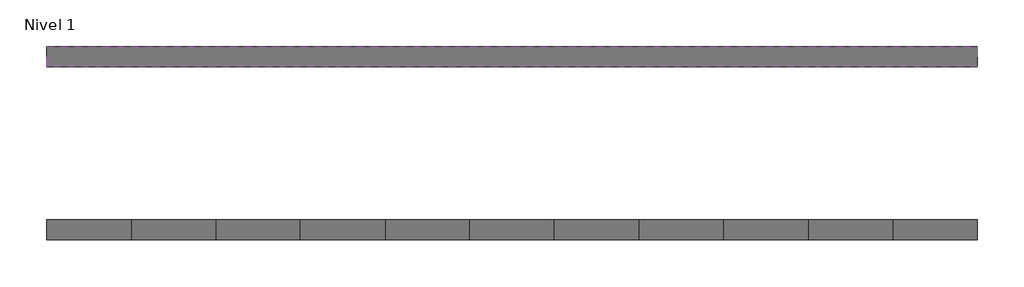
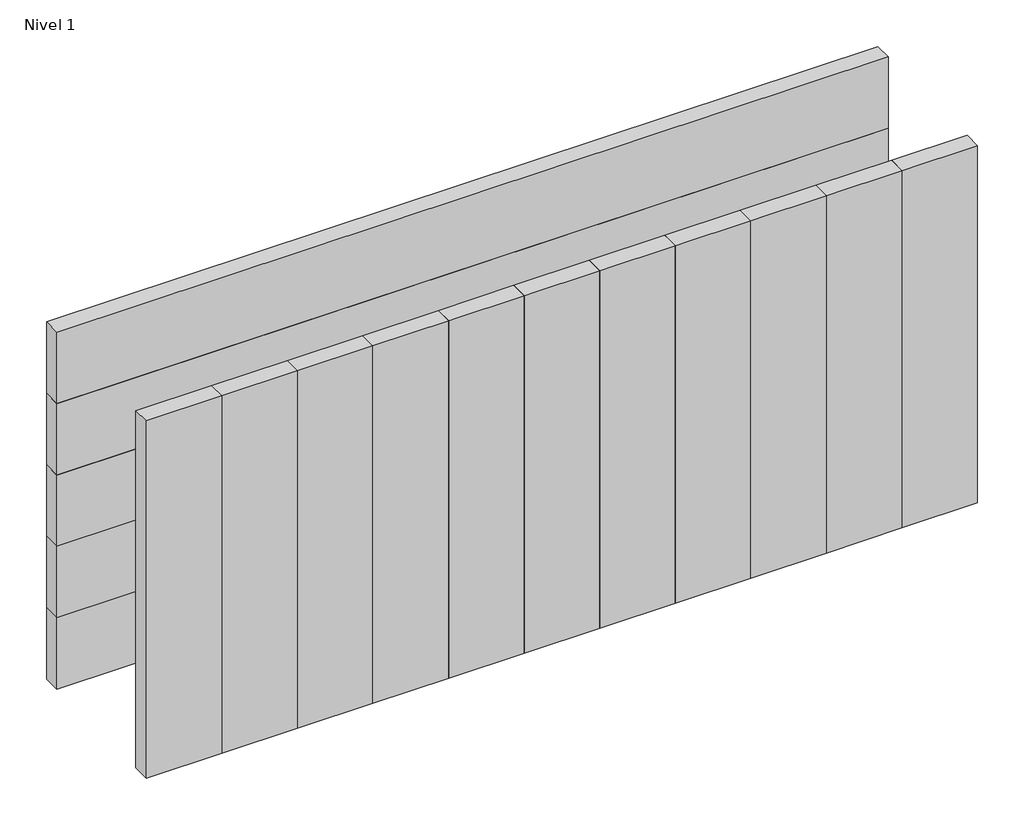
# One storey: 16 plates.
"""IFC4 building model written with IfcOpenShell, lengths in millimetres."""

import ifcopenshell
import ifcopenshell.guid

model = None  # the IFC model being written
_history = None  # IfcOwnerHistory: only IFC2X3 demands one
_inside = {}  # id of a spatial element -> (the spatial element, [elements in it])
_under = {}  # id of a project, library or spatial element -> (it, [spatial elements below it])
_declared = {}  # id of a project -> (the project, [libraries it declares])
_typed = {}  # id of a type object -> (the type object, [elements of that type])
_made_of = {}  # id of a material, layer set ... -> (it, [elements and type objects made of it])


def new_model(schema):
    """Start an empty IFC model of exactly this schema.

    Asked for "IFC4X3", IfcOpenShell would pick the latest addendum, in which some entities
    have other attributes; the version numbers below select the first issue.
    IFC2X3 requires an IfcOwnerHistory on every rooted entity: one is made here for all.
    """
    global model, _history
    if schema == "IFC4X3":
        model = ifcopenshell.file(schema_version=(4, 3, 0, 0))
    else:
        model = ifcopenshell.file(schema=schema)
    _inside.clear()
    _under.clear()
    _declared.clear()
    _typed.clear()
    _made_of.clear()
    _history = None
    if model.schema == "IFC2X3":
        org = make("IfcOrganization", Name="unknown")
        user = make(
            "IfcPersonAndOrganization",
            ThePerson=make("IfcPerson", FamilyName="unknown"),
            TheOrganization=org,
        )
        app = make(
            "IfcApplication",
            ApplicationDeveloper=org,
            Version="unknown",
            ApplicationFullName="unknown",
            ApplicationIdentifier="unknown",
        )
        _history = make(
            "IfcOwnerHistory",
            OwningUser=user,
            OwningApplication=app,
            ChangeAction="ADDED",
            CreationDate=0,
        )
    return model


def make(cls, **values):
    """One entity of the class cls with the attributes given. An attribute that is None is left unset."""
    return model.create_entity(
        cls, **{name: value for name, value in values.items() if value is not None}
    )


def rooted(cls, **values):
    """An entity with a GlobalId (a new one), such as an element, a storey or a relation."""
    return make(cls, GlobalId=ifcopenshell.guid.new(), OwnerHistory=_history, **values)


def si_unit(unit_type, name, prefix=None):
    """IfcSIUnit, for example si_unit("LENGTHUNIT", "METRE", prefix="MILLI")."""
    return make("IfcSIUnit", UnitType=unit_type, Prefix=prefix, Name=name)


def assignment(units):
    """IfcUnitAssignment: the units of a project."""
    return None if units is None else make("IfcUnitAssignment", Units=units)


def point(xyz):
    """IfcCartesianPoint."""
    return None if xyz is None else make("IfcCartesianPoint", Coordinates=xyz)


def direction(xyz):
    """IfcDirection."""
    return None if xyz is None else make("IfcDirection", DirectionRatios=xyz)


def frame(location, z_axis=None, x_axis=None):
    """IfcAxis2Placement3D, a coordinate frame: its origin and axes. An axis left out is left unset."""
    return make(
        "IfcAxis2Placement3D",
        Location=point(location),
        Axis=direction(z_axis),
        RefDirection=direction(x_axis),
    )


def origin():
    """The frame at (0, 0, 0) with its axes left unset."""
    return frame((0.0, 0.0, 0.0))


def origin_with_axes():
    """The frame at (0, 0, 0) with the z axis (0, 0, 1) and the x axis (1, 0, 0) written out."""
    return frame((0.0, 0.0, 0.0), z_axis=(0.0, 0.0, 1.0), x_axis=(1.0, 0.0, 0.0))


def place(relative_to, where):
    """IfcLocalPlacement: puts the frame where relative to a parent placement (None: the world)."""
    return make(
        "IfcLocalPlacement", PlacementRelTo=relative_to, RelativePlacement=where
    )


def context(
    kind, dimensions, precision=None, world=None, true_north=None, identifier=None
):
    """IfcGeometricRepresentationContext, for example the 3D "Model" context."""
    return make(
        "IfcGeometricRepresentationContext",
        ContextIdentifier=identifier,
        ContextType=kind,
        CoordinateSpaceDimension=dimensions,
        Precision=precision,
        WorldCoordinateSystem=world,
        TrueNorth=true_north,
    )


def project(units=None, contexts=None):
    """IfcProject with its units and contexts."""
    return rooted(
        "IfcProject",
        Name="project",
        RepresentationContexts=contexts,
        UnitsInContext=assignment(units),
    )


def spatial(cls, under=None, at=None, **own):
    """A site, building, storey or space (cls), placed at a placement, below another one or the project."""
    s = rooted(cls, ObjectPlacement=at, **own)
    if under is not None:
        _under.setdefault(under.id(), (under, []))[1].append(s)
    return s


def polyline(points):
    """IfcPolyline through the points."""
    return make("IfcPolyline", Points=[point(p) for p in points])


def outline(outer, holes=None, kind="AREA"):
    """IfcArbitraryClosedProfileDef: a profile drawn as a closed curve; with holes, ...WithVoids."""
    if holes is None:
        return make("IfcArbitraryClosedProfileDef", ProfileType=kind, OuterCurve=outer)
    return make(
        "IfcArbitraryProfileDefWithVoids",
        ProfileType=kind,
        OuterCurve=outer,
        InnerCurves=holes,
    )


def extrude(swept, where, along, depth):
    """IfcExtrudedAreaSolid: the profile swept, set in the frame where, extruded along a direction by depth."""
    return make(
        "IfcExtrudedAreaSolid",
        SweptArea=swept,
        Position=where,
        ExtrudedDirection=direction(along),
        Depth=depth,
    )


def shape(context_of_items, identifier, shape_type, items):
    """IfcShapeRepresentation: the items that make up one representation, for example the "Body"."""
    return make(
        "IfcShapeRepresentation",
        ContextOfItems=context_of_items,
        RepresentationIdentifier=identifier,
        RepresentationType=shape_type,
        Items=items,
    )


def source(mapping_origin, context_of_items, identifier, shape_type, items):
    """IfcRepresentationMap: a shape defined once, which mapped items show again and again."""
    return make(
        "IfcRepresentationMap",
        MappingOrigin=mapping_origin,
        MappedRepresentation=shape(context_of_items, identifier, shape_type, items),
    )


def transform(
    local_origin,
    x_axis=None,
    y_axis=None,
    z_axis=None,
    scale=None,
    scale2=None,
    scale3=None,
    uniform=True,
):
    """IfcCartesianTransformationOperator3D, or its non-uniform kind. x_axis, y_axis, z_axis: its Axis1, 2, 3."""
    if uniform:
        return make(
            "IfcCartesianTransformationOperator3D",
            Axis1=direction(x_axis),
            Axis2=direction(y_axis),
            LocalOrigin=point(local_origin),
            Scale=scale,
            Axis3=direction(z_axis),
        )
    return make(
        "IfcCartesianTransformationOperator3DnonUniform",
        Axis1=direction(x_axis),
        Axis2=direction(y_axis),
        LocalOrigin=point(local_origin),
        Scale=scale,
        Axis3=direction(z_axis),
        Scale2=scale2,
        Scale3=scale3,
    )


def mapped(mapping_source, mapping_target):
    """IfcMappedItem: shows the shape of a source again, moved by a transform."""
    return make(
        "IfcMappedItem", MappingSource=mapping_source, MappingTarget=mapping_target
    )


def made_of(thing, what):
    """Note that an element or type object is made of a material, layer set ...; save() writes the relation."""
    if what is not None:
        _made_of.setdefault(what.id(), (what, []))[1].append(thing)
    return thing


def element(
    cls,
    number,
    at=None,
    inside=None,
    cuts=None,
    type_object=None,
    material=None,
    context=None,
    identifier="Body",
    shape_type=None,
    held_by="IfcProductDefinitionShape",
    body=None,
    shapes=None,
    **own,
):
    """One element of the class cls, such as IfcWall. Its Tag is "e" and its number.

    at: its placement. inside: the storey or other place that contains it. cuts: it is an
    opening in that element (IfcRelVoidsElement). A single representation is given by context,
    identifier, shape_type and body (its items); several are given by shapes. held_by: the class
    of the entity that holds the representations. save() writes the other relations.
    """
    e = rooted(cls, Tag="e%d" % number, ObjectPlacement=at, **own)
    if body is not None:
        shapes = [shape(context, identifier, shape_type, body)]
    if shapes is not None:
        e.Representation = make(held_by, Representations=shapes)
    if inside is not None:
        _inside.setdefault(inside.id(), (inside, []))[1].append(e)
    if cuts is not None:
        rooted(
            "IfcRelVoidsElement", RelatingBuildingElement=cuts, RelatedOpeningElement=e
        )
    if type_object is not None:
        _typed.setdefault(type_object.id(), (type_object, []))[1].append(e)
    return made_of(e, material)


def aggregate(whole, parts):
    """IfcRelAggregates: a whole, such as a stair, and the parts it consists of."""
    return rooted("IfcRelAggregates", RelatingObject=whole, RelatedObjects=parts)


def save(model, path):
    """Write the relations noted so far, then the file.

    IfcRelAggregates (storeys below a building ...), IfcRelContainedInSpatialStructure (elements
    in a storey), IfcRelDefinesByType, IfcRelAssociatesMaterial and IfcRelDeclares: one each for
    every whole, place, type object, material and project.
    """
    for whole, parts in _under.values():
        aggregate(whole, parts)
    for where, things in _inside.values():
        rooted(
            "IfcRelContainedInSpatialStructure",
            RelatedElements=things,
            RelatingStructure=where,
        )
    for kind, things in _typed.values():
        rooted("IfcRelDefinesByType", RelatedObjects=things, RelatingType=kind)
    for what, things in _made_of.values():
        rooted("IfcRelAssociatesMaterial", RelatedObjects=things, RelatingMaterial=what)
    for by, libraries in _declared.values():
        rooted("IfcRelDeclares", RelatingContext=by, RelatedDefinitions=libraries)
    model.write(path)


def panel_del_sistema_43061807(model_context):
    return source(origin(), model_context, "Body", "SweptSolid", [
        extrude(outline(polyline([(190.0000002, -90.0), (-190.0000002, -90.0), (-190.0000002, 0.0), (190.0000002, 0.0), (190.0000002, -90.0)])), origin_with_axes(), (0.0, 0.0, 1.0), 1900.0),
    ])


def panel_del_sistema_86ecf21b(model_context):
    return source(origin(), model_context, "Body", "SweptSolid", [
        extrude(outline(polyline([(2090.0, -90.0), (-2090.0, -90.0), (-2090.0, 0.0), (2090.0, 0.0), (2090.0, -90.0)])), origin_with_axes(), (0.0, 0.0, 1.0), 380.0),
    ])


model = new_model("IFC4")

# Units and contexts
model_context = context("Model", 3, world=origin())
ifc_project = project(units=[si_unit("LENGTHUNIT", "METRE", prefix="MILLI")], contexts=[model_context])

# Site, building, storey
site = spatial("IfcSite", under=ifc_project)
building = spatial("IfcBuilding", under=site)
storey = spatial("IfcBuildingStorey", under=building, Name="Nivel 1", Elevation=0.0)

# Plates
placement = place(None, origin())
panel_del_sistema_shape = panel_del_sistema_43061807(model_context)
element("IfcPlate", 1, ObjectType="Panel del sistema : HIANSA - CHAPA PERFILADA CUBIERTA - BANDEJA 90.380 Vert", at=placement, inside=storey, context=model_context, shape_type="MappedRepresentation", body=[
    mapped(panel_del_sistema_shape, transform((4568.1436702, 17658.0269271, 0.0), x_axis=(1.0, 0.0, 0.0), y_axis=(0.0, 1.0, 0.0), z_axis=(0.0, 0.0, 1.0))),
])
element("IfcPlate", 2, ObjectType="Panel del sistema : HIANSA - CHAPA PERFILADA CUBIERTA - BANDEJA 90.380 Vert", at=placement, inside=storey, context=model_context, shape_type="MappedRepresentation", body=[
    mapped(panel_del_sistema_shape, transform((7608.1436703, 17658.0269271, 0.0), x_axis=(1.0, 0.0, 0.0), y_axis=(0.0, 1.0, 0.0), z_axis=(0.0, 0.0, 1.0))),
])
element("IfcPlate", 3, ObjectType="Panel del sistema : HIANSA - CHAPA PERFILADA CUBIERTA - BANDEJA 90.380 Vert", at=placement, inside=storey, context=model_context, shape_type="MappedRepresentation", body=[
    mapped(panel_del_sistema_shape, transform((7988.1436703, 17658.0269271, 0.0), x_axis=(1.0, 0.0, 0.0), y_axis=(0.0, 1.0, 0.0), z_axis=(0.0, 0.0, 1.0))),
])
element("IfcPlate", 4, ObjectType="Panel del sistema : HIANSA - CHAPA PERFILADA CUBIERTA - BANDEJA 90.380 Vert", at=placement, inside=storey, context=model_context, shape_type="MappedRepresentation", body=[
    mapped(panel_del_sistema_shape, transform((8368.1436702, 17658.0269271, 0.0), x_axis=(1.0, 0.0, 0.0), y_axis=(0.0, 1.0, 0.0), z_axis=(0.0, 0.0, 1.0))),
])
element("IfcPlate", 5, ObjectType="Panel del sistema : HIANSA - CHAPA PERFILADA CUBIERTA - BANDEJA 90.380 Vert", at=placement, inside=storey, context=model_context, shape_type="MappedRepresentation", body=[
    mapped(panel_del_sistema_shape, transform((7228.1436703, 17658.0269271, 0.0), x_axis=(1.0, 0.0, 0.0), y_axis=(0.0, 1.0, 0.0), z_axis=(0.0, 0.0, 1.0))),
])
element("IfcPlate", 6, ObjectType="Panel del sistema : HIANSA - CHAPA PERFILADA CUBIERTA - BANDEJA 90.380 Vert", at=placement, inside=storey, context=model_context, shape_type="MappedRepresentation", body=[
    mapped(panel_del_sistema_shape, transform((6848.1436703, 17658.0269271, 0.0), x_axis=(1.0, 0.0, 0.0), y_axis=(0.0, 1.0, 0.0), z_axis=(0.0, 0.0, 1.0))),
])
element("IfcPlate", 7, ObjectType="Panel del sistema : HIANSA - CHAPA PERFILADA CUBIERTA - BANDEJA 90.380 Vert", at=placement, inside=storey, context=model_context, shape_type="MappedRepresentation", body=[
    mapped(panel_del_sistema_shape, transform((6468.1436703, 17658.0269271, 0.0), x_axis=(1.0, 0.0, 0.0), y_axis=(0.0, 1.0, 0.0), z_axis=(0.0, 0.0, 1.0))),
])
element("IfcPlate", 8, ObjectType="Panel del sistema : HIANSA - CHAPA PERFILADA CUBIERTA - BANDEJA 90.380 Vert", at=placement, inside=storey, context=model_context, shape_type="MappedRepresentation", body=[
    mapped(panel_del_sistema_shape, transform((6088.1436703, 17658.0269271, 0.0), x_axis=(1.0, 0.0, 0.0), y_axis=(0.0, 1.0, 0.0), z_axis=(0.0, 0.0, 1.0))),
])
element("IfcPlate", 9, ObjectType="Panel del sistema : HIANSA - CHAPA PERFILADA CUBIERTA - BANDEJA 90.380 Vert", at=placement, inside=storey, context=model_context, shape_type="MappedRepresentation", body=[
    mapped(panel_del_sistema_shape, transform((5708.1436703, 17658.0269271, 0.0), x_axis=(1.0, 0.0, 0.0), y_axis=(0.0, 1.0, 0.0), z_axis=(0.0, 0.0, 1.0))),
])
element("IfcPlate", 10, ObjectType="Panel del sistema : HIANSA - CHAPA PERFILADA CUBIERTA - BANDEJA 90.380 Vert", at=placement, inside=storey, context=model_context, shape_type="MappedRepresentation", body=[
    mapped(panel_del_sistema_shape, transform((5328.1436703, 17658.0269271, 0.0), x_axis=(1.0, 0.0, 0.0), y_axis=(0.0, 1.0, 0.0), z_axis=(0.0, 0.0, 1.0))),
])
element("IfcPlate", 11, ObjectType="Panel del sistema : HIANSA - CHAPA PERFILADA CUBIERTA - BANDEJA 90.380 Vert", at=placement, inside=storey, context=model_context, shape_type="MappedRepresentation", body=[
    mapped(panel_del_sistema_shape, transform((4948.1436703, 17658.0269271, 0.0), x_axis=(1.0, 0.0, 0.0), y_axis=(0.0, 1.0, 0.0), z_axis=(0.0, 0.0, 1.0))),
])
panel_del_sistema_2_shape = panel_del_sistema_86ecf21b(model_context)
element("IfcPlate", 12, ObjectType="Panel del sistema : HIANSA - CHAPA PERFILADA CUBIERTA - BANDEJA 90.380 Hor", at=placement, inside=storey, context=model_context, shape_type="MappedRepresentation", body=[
    mapped(panel_del_sistema_2_shape, transform((6468.14367, 18436.5269271, 0.0), x_axis=(1.0, 0.0, 0.0), y_axis=(0.0, 1.0, 0.0), z_axis=(0.0, 0.0, 1.0))),
])
element("IfcPlate", 13, ObjectType="Panel del sistema : HIANSA - CHAPA PERFILADA CUBIERTA - BANDEJA 90.380 Hor", at=placement, inside=storey, context=model_context, shape_type="MappedRepresentation", body=[
    mapped(panel_del_sistema_2_shape, transform((6468.14367, 18436.5269271, 380.0), x_axis=(1.0, 0.0, 0.0), y_axis=(0.0, 1.0, 0.0), z_axis=(0.0, 0.0, 1.0))),
])
element("IfcPlate", 14, ObjectType="Panel del sistema : HIANSA - CHAPA PERFILADA CUBIERTA - BANDEJA 90.380 Hor", at=placement, inside=storey, context=model_context, shape_type="MappedRepresentation", body=[
    mapped(panel_del_sistema_2_shape, transform((6468.14367, 18436.5269271, 760.0), x_axis=(1.0, 0.0, 0.0), y_axis=(0.0, 1.0, 0.0), z_axis=(0.0, 0.0, 1.0))),
])
element("IfcPlate", 15, ObjectType="Panel del sistema : HIANSA - CHAPA PERFILADA CUBIERTA - BANDEJA 90.380 Hor", at=placement, inside=storey, context=model_context, shape_type="MappedRepresentation", body=[
    mapped(panel_del_sistema_2_shape, transform((6468.14367, 18436.5269271, 1140.0), x_axis=(1.0, 0.0, 0.0), y_axis=(0.0, 1.0, 0.0), z_axis=(0.0, 0.0, 1.0))),
])
element("IfcPlate", 16, ObjectType="Panel del sistema : HIANSA - CHAPA PERFILADA CUBIERTA - BANDEJA 90.380 Hor", at=placement, inside=storey, context=model_context, shape_type="MappedRepresentation", body=[
    mapped(panel_del_sistema_2_shape, transform((6468.14367, 18436.5269271, 1520.0), x_axis=(1.0, 0.0, 0.0), y_axis=(0.0, 1.0, 0.0), z_axis=(0.0, 0.0, 1.0))),
])

save(model, "model.ifc")
